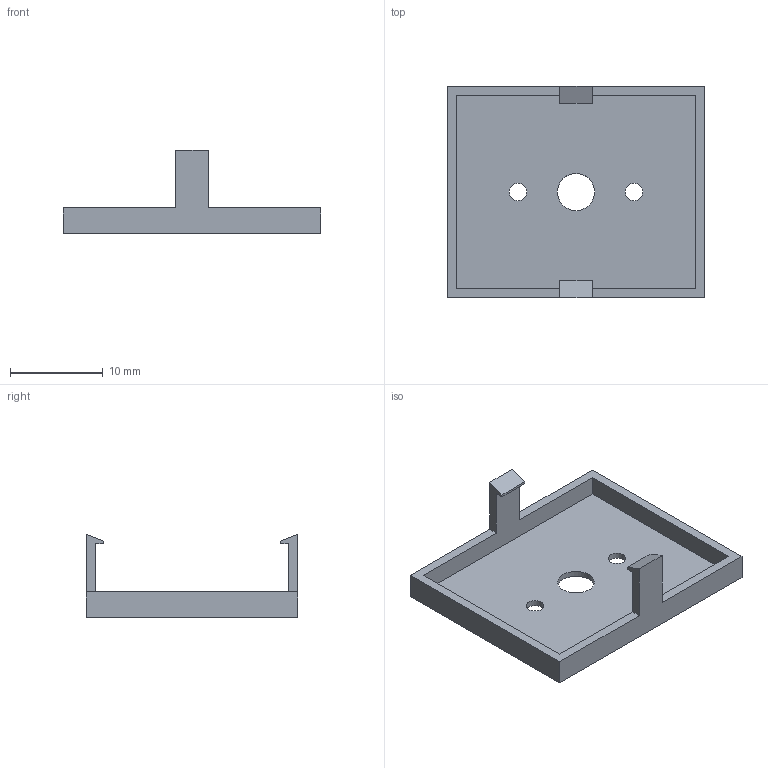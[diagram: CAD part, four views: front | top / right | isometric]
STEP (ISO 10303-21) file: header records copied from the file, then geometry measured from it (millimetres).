
FILE_DESCRIPTION(('Open CASCADE Model'),'2;1');
FILE_NAME('snap_cradle','2026-11-19T17:25:15',('Author'),('Open CASCADE' ),'Open CASCADE STEP processor 7.8','build123d','Unknown');
FILE_SCHEMA(('AUTOMOTIVE_DESIGN { 1 0 10303 214 1 1 1 1 }'));
Length unit declared in the file: millimetre
Products named in the file (1): snap_cradle
Bounding box: 27.8 x 22.8 x 9 mm (x, y, z)
Volume: 653.6 mm3; surface area: 1850.8 mm2
Topology: 1 solids, 1 shells, 25 faces, 69 edges, 46 vertices
Faces by surface type: plane 22, cylinder 3
Full cylindrical faces by diameter (mm): 1.9 x2, 4 x1
Entity records: 1701 total; most frequent: CARTESIAN_POINT 295, DIRECTION 249, LINE 179, VECTOR 179, ORIENTED_EDGE 138, PCURVE 138, DEFINITIONAL_REPRESENTATION 138, EDGE_CURVE 69
